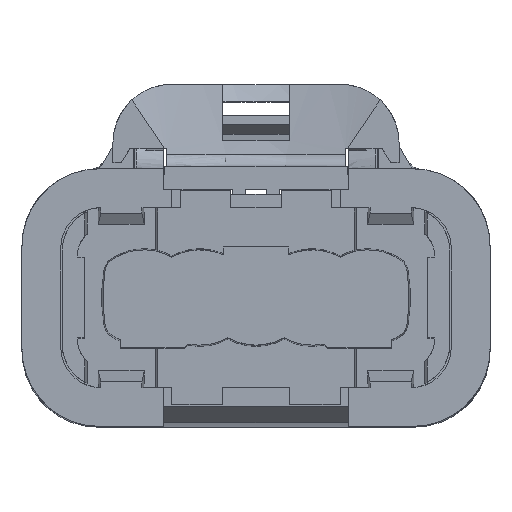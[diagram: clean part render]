
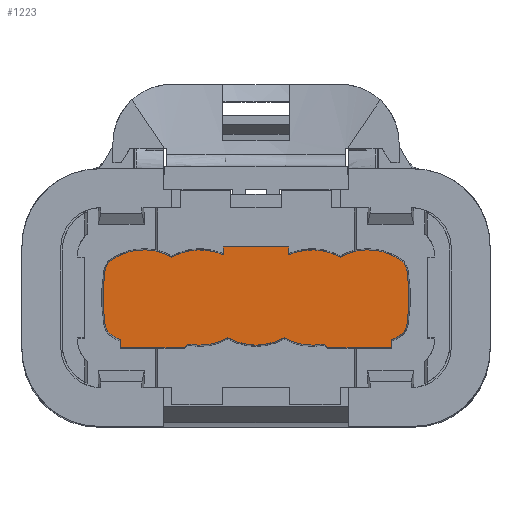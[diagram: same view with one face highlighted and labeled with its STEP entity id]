
A CAD part, top view. The second image highlights one B-rep face of the part: STEP entity #1223.
In plain terms, the highlighted planar face has unit normal (0, 0, 1).
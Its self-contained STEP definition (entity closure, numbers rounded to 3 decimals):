
#1223=ADVANCED_FACE('',(#2670),#1866,.T.);
#1866=PLANE('',#17959);
#2670=FACE_OUTER_BOUND('',#3540,.T.);
#3540=EDGE_LOOP('',(#8256,#8257,#8258,#8259,#8260,#8261,#8262,#8263,#8264,
#8265,#8266,#8267,#8268,#8269,#8270,#8271,#8272,#8273,#8274,#8275,#8276,
#8277,#8278,#8279,#8280,#8281));
#3763=ELLIPSE('',#17887,0.198,0.198);
#3764=ELLIPSE('',#17936,0.196,0.196);
#4107=CIRCLE('',#17866,0.1);
#4108=CIRCLE('',#17868,3.33);
#4109=CIRCLE('',#17870,0.93);
#4110=CIRCLE('',#17872,9.93);
#4111=CIRCLE('',#17874,0.93);
#4112=CIRCLE('',#17876,3.33);
#4118=CIRCLE('',#17889,3.33);
#4121=CIRCLE('',#17904,3.33);
#4124=CIRCLE('',#17918,3.33);
#4127=CIRCLE('',#17923,0.1);
#4130=CIRCLE('',#17931,3.33);
#4132=CIRCLE('',#17934,3.33);
#4133=CIRCLE('',#17939,3.33);
#4135=CIRCLE('',#17942,0.93);
#4137=CIRCLE('',#17945,9.93);
#4139=CIRCLE('',#17948,0.93);
#4140=CIRCLE('',#17950,3.33);
#8256=ORIENTED_EDGE('',*,*,#12826,.T.);
#8257=ORIENTED_EDGE('',*,*,#12828,.T.);
#8258=ORIENTED_EDGE('',*,*,#12652,.T.);
#8259=ORIENTED_EDGE('',*,*,#12772,.T.);
#8260=ORIENTED_EDGE('',*,*,#12743,.T.);
#8261=ORIENTED_EDGE('',*,*,#12713,.T.);
#8262=ORIENTED_EDGE('',*,*,#12711,.T.);
#8263=ORIENTED_EDGE('',*,*,#12709,.T.);
#8264=ORIENTED_EDGE('',*,*,#12707,.T.);
#8265=ORIENTED_EDGE('',*,*,#12705,.T.);
#8266=ORIENTED_EDGE('',*,*,#12655,.T.);
#8267=ORIENTED_EDGE('',*,*,#12647,.T.);
#8268=ORIENTED_EDGE('',*,*,#12701,.T.);
#8269=ORIENTED_EDGE('',*,*,#12740,.T.);
#8270=ORIENTED_EDGE('',*,*,#12769,.T.);
#8271=ORIENTED_EDGE('',*,*,#12805,.T.);
#8272=ORIENTED_EDGE('',*,*,#12808,.T.);
#8273=ORIENTED_EDGE('',*,*,#12811,.T.);
#8274=ORIENTED_EDGE('',*,*,#12797,.T.);
#8275=ORIENTED_EDGE('',*,*,#12750,.T.);
#8276=ORIENTED_EDGE('',*,*,#12813,.T.);
#8277=ORIENTED_EDGE('',*,*,#12816,.T.);
#8278=ORIENTED_EDGE('',*,*,#12819,.T.);
#8279=ORIENTED_EDGE('',*,*,#12822,.T.);
#8280=ORIENTED_EDGE('',*,*,#12825,.T.);
#8281=ORIENTED_EDGE('',*,*,#12791,.T.);
#10401=VERTEX_POINT('',#27629);
#10402=VERTEX_POINT('',#27631);
#10403=VERTEX_POINT('',#27635);
#10406=VERTEX_POINT('',#27640);
#10408=VERTEX_POINT('',#27648);
#10441=VERTEX_POINT('',#27741);
#10444=VERTEX_POINT('',#27755);
#10445=VERTEX_POINT('',#27759);
#10446=VERTEX_POINT('',#27763);
#10447=VERTEX_POINT('',#27767);
#10448=VERTEX_POINT('',#27771);
#10467=VERTEX_POINT('',#27828);
#10469=VERTEX_POINT('',#27840);
#10472=VERTEX_POINT('',#27853);
#10473=VERTEX_POINT('',#27855);
#10483=VERTEX_POINT('',#27895);
#10494=VERTEX_POINT('',#27942);
#10495=VERTEX_POINT('',#27943);
#10498=VERTEX_POINT('',#27957);
#10503=VERTEX_POINT('',#27981);
#10505=VERTEX_POINT('',#27990);
#10507=VERTEX_POINT('',#28008);
#10509=VERTEX_POINT('',#28017);
#10511=VERTEX_POINT('',#28023);
#10513=VERTEX_POINT('',#28029);
#10514=VERTEX_POINT('',#28036);
#12647=EDGE_CURVE('',#10402,#10401,#14644,.T.);
#12652=EDGE_CURVE('',#10403,#10406,#14649,.T.);
#12655=EDGE_CURVE('',#10408,#10402,#14652,.T.);
#12701=EDGE_CURVE('',#10401,#10441,#4107,.T.);
#12705=EDGE_CURVE('',#10444,#10408,#4108,.T.);
#12707=EDGE_CURVE('',#10445,#10444,#4109,.T.);
#12709=EDGE_CURVE('',#10446,#10445,#4110,.T.);
#12711=EDGE_CURVE('',#10447,#10446,#4111,.T.);
#12713=EDGE_CURVE('',#10448,#10447,#4112,.T.);
#12740=EDGE_CURVE('',#10441,#10467,#3763,.T.);
#12743=EDGE_CURVE('',#10469,#10448,#4118,.T.);
#12750=EDGE_CURVE('',#10472,#10473,#14710,.T.);
#12769=EDGE_CURVE('',#10467,#10483,#4121,.T.);
#12772=EDGE_CURVE('',#10406,#10469,#14728,.T.);
#12791=EDGE_CURVE('',#10494,#10495,#4124,.T.);
#12797=EDGE_CURVE('',#10498,#10472,#4127,.T.);
#12805=EDGE_CURVE('',#10483,#10503,#4130,.T.);
#12808=EDGE_CURVE('',#10503,#10505,#4132,.T.);
#12811=EDGE_CURVE('',#10505,#10498,#3764,.T.);
#12813=EDGE_CURVE('',#10473,#10507,#14751,.T.);
#12816=EDGE_CURVE('',#10507,#10509,#4133,.T.);
#12819=EDGE_CURVE('',#10509,#10511,#4135,.T.);
#12822=EDGE_CURVE('',#10511,#10513,#4137,.T.);
#12825=EDGE_CURVE('',#10513,#10494,#4139,.T.);
#12826=EDGE_CURVE('',#10495,#10514,#4140,.T.);
#12828=EDGE_CURVE('',#10514,#10403,#14756,.T.);
#14644=LINE('',#27630,#16464);
#14649=LINE('',#27641,#16469);
#14652=LINE('',#27647,#16472);
#14710=LINE('',#27856,#16530);
#14728=LINE('',#27903,#16548);
#14751=LINE('',#28007,#16571);
#14756=LINE('',#28042,#16576);
#16464=VECTOR('',#21595,1.);
#16469=VECTOR('',#21602,1.);
#16472=VECTOR('',#21609,1.);
#16530=VECTOR('',#21773,1.);
#16548=VECTOR('',#21819,1.);
#16571=VECTOR('',#21904,1.);
#16576=VECTOR('',#21937,1.);
#17866=AXIS2_PLACEMENT_3D('',#27740,#21691,#21692);
#17868=AXIS2_PLACEMENT_3D('',#27754,#21696,#21697);
#17870=AXIS2_PLACEMENT_3D('',#27758,#21701,#21702);
#17872=AXIS2_PLACEMENT_3D('',#27762,#21706,#21707);
#17874=AXIS2_PLACEMENT_3D('',#27766,#21711,#21712);
#17876=AXIS2_PLACEMENT_3D('',#27770,#21716,#21717);
#17887=AXIS2_PLACEMENT_3D('',#27827,#21757,#21758);
#17889=AXIS2_PLACEMENT_3D('',#27839,#21761,#21762);
#17904=AXIS2_PLACEMENT_3D('',#27894,#21813,#21814);
#17918=AXIS2_PLACEMENT_3D('',#27941,#21859,#21860);
#17923=AXIS2_PLACEMENT_3D('',#27956,#21871,#21872);
#17931=AXIS2_PLACEMENT_3D('',#27980,#21890,#21891);
#17934=AXIS2_PLACEMENT_3D('',#27989,#21896,#21897);
#17936=AXIS2_PLACEMENT_3D('',#28001,#21900,#21901);
#17939=AXIS2_PLACEMENT_3D('',#28016,#21908,#21909);
#17942=AXIS2_PLACEMENT_3D('',#28022,#21915,#21916);
#17945=AXIS2_PLACEMENT_3D('',#28028,#21922,#21923);
#17948=AXIS2_PLACEMENT_3D('',#28033,#21929,#21930);
#17950=AXIS2_PLACEMENT_3D('',#28035,#21933,#21934);
#17959=AXIS2_PLACEMENT_3D('',#28052,#21954,#21955);
#21595=DIRECTION('',(1.,0.,0.));
#21602=DIRECTION('',(-1.,0.,0.));
#21609=DIRECTION('',(0.,-1.,0.));
#21691=DIRECTION('',(0.,0.,1.));
#21692=DIRECTION('',(1.,0.,0.));
#21696=DIRECTION('',(0.,0.,1.));
#21697=DIRECTION('',(1.,0.,0.));
#21701=DIRECTION('',(0.,0.,1.));
#21702=DIRECTION('',(1.,0.,0.));
#21706=DIRECTION('',(0.,0.,1.));
#21707=DIRECTION('',(1.,0.,0.));
#21711=DIRECTION('',(0.,0.,1.));
#21712=DIRECTION('',(1.,0.,0.));
#21716=DIRECTION('',(0.,0.,1.));
#21717=DIRECTION('',(1.,0.,0.));
#21757=DIRECTION('',(0.,0.,-1.));
#21758=DIRECTION('',(0.349,0.937,0.));
#21761=DIRECTION('',(0.,0.,1.));
#21762=DIRECTION('',(1.,0.,0.));
#21773=DIRECTION('',(1.,0.,0.));
#21813=DIRECTION('',(0.,0.,1.));
#21814=DIRECTION('',(1.,0.,0.));
#21819=DIRECTION('',(0.,-1.,0.));
#21859=DIRECTION('',(0.,0.,1.));
#21860=DIRECTION('',(1.,0.,0.));
#21871=DIRECTION('',(0.,0.,1.));
#21872=DIRECTION('',(1.,0.,0.));
#21890=DIRECTION('',(0.,0.,1.));
#21891=DIRECTION('',(1.,0.,0.));
#21896=DIRECTION('',(0.,0.,1.));
#21897=DIRECTION('',(1.,0.,0.));
#21900=DIRECTION('',(0.,0.,-1.));
#21901=DIRECTION('',(0.372,-0.928,0.));
#21904=DIRECTION('',(0.,1.,0.));
#21908=DIRECTION('',(0.,0.,1.));
#21909=DIRECTION('',(1.,0.,0.));
#21915=DIRECTION('',(0.,0.,1.));
#21916=DIRECTION('',(1.,0.,0.));
#21922=DIRECTION('',(0.,0.,1.));
#21923=DIRECTION('',(1.,0.,0.));
#21929=DIRECTION('',(0.,0.,1.));
#21930=DIRECTION('',(1.,0.,0.));
#21933=DIRECTION('',(0.,0.,1.));
#21934=DIRECTION('',(1.,0.,0.));
#21937=DIRECTION('',(0.,1.,0.));
#21954=DIRECTION('',(0.,0.,1.));
#21955=DIRECTION('',(-1.,0.,0.));
#27629=CARTESIAN_POINT('',(-4.26,-3.,29.35));
#27630=CARTESIAN_POINT('',(10.839,-3.,29.35));
#27631=CARTESIAN_POINT('',(-8.06,-3.,29.35));
#27635=CARTESIAN_POINT('',(1.95,3.,29.35));
#27640=CARTESIAN_POINT('',(-1.95,3.,29.35));
#27641=CARTESIAN_POINT('',(10.839,3.,29.35));
#27647=CARTESIAN_POINT('',(-8.06,3.915,29.35));
#27648=CARTESIAN_POINT('',(-8.06,-2.522,29.35));
#27740=CARTESIAN_POINT('',(-4.26,-2.9,29.35));
#27741=CARTESIAN_POINT('',(-4.162,-2.924,29.35));
#27754=CARTESIAN_POINT('',(-6.66,0.5,29.35));
#27755=CARTESIAN_POINT('',(-8.583,-2.219,29.35));
#27758=CARTESIAN_POINT('',(-8.046,-1.459,29.35));
#27759=CARTESIAN_POINT('',(-8.964,-1.61,29.35));
#27762=CARTESIAN_POINT('',(0.835,0.,29.35));
#27763=CARTESIAN_POINT('',(-8.964,1.61,29.35));
#27766=CARTESIAN_POINT('',(-8.046,1.459,29.35));
#27767=CARTESIAN_POINT('',(-8.583,2.219,29.35));
#27770=CARTESIAN_POINT('',(-6.66,-0.5,29.35));
#27771=CARTESIAN_POINT('',(-4.995,2.384,29.35));
#27827=CARTESIAN_POINT('',(-3.968,-2.971,29.35));
#27828=CARTESIAN_POINT('',(-3.933,-2.775,29.35));
#27839=CARTESIAN_POINT('',(-3.33,-0.5,29.35));
#27840=CARTESIAN_POINT('',(-1.95,2.531,29.35));
#27853=CARTESIAN_POINT('',(4.26,-3.,29.35));
#27855=CARTESIAN_POINT('',(8.06,-3.,29.35));
#27856=CARTESIAN_POINT('',(10.839,-3.,29.35));
#27894=CARTESIAN_POINT('',(-3.33,0.5,29.35));
#27895=CARTESIAN_POINT('',(-1.665,-2.384,29.35));
#27903=CARTESIAN_POINT('',(-1.95,3.915,29.35));
#27941=CARTESIAN_POINT('',(6.66,-0.5,29.35));
#27942=CARTESIAN_POINT('',(8.583,2.219,29.35));
#27943=CARTESIAN_POINT('',(4.995,2.384,29.35));
#27956=CARTESIAN_POINT('',(4.26,-2.9,29.35));
#27957=CARTESIAN_POINT('',(4.161,-2.924,29.35));
#27980=CARTESIAN_POINT('',(0.,0.5,29.35));
#27981=CARTESIAN_POINT('',(1.665,-2.384,29.35));
#27989=CARTESIAN_POINT('',(3.33,0.5,29.35));
#27990=CARTESIAN_POINT('',(3.933,-2.775,29.35));
#28001=CARTESIAN_POINT('',(3.967,-2.968,29.35));
#28007=CARTESIAN_POINT('',(8.06,3.915,29.35));
#28008=CARTESIAN_POINT('',(8.06,-2.522,29.35));
#28016=CARTESIAN_POINT('',(6.66,0.5,29.35));
#28017=CARTESIAN_POINT('',(8.583,-2.219,29.35));
#28022=CARTESIAN_POINT('',(8.046,-1.459,29.35));
#28023=CARTESIAN_POINT('',(8.964,-1.61,29.35));
#28028=CARTESIAN_POINT('',(-0.835,0.,29.35));
#28029=CARTESIAN_POINT('',(8.964,1.61,29.35));
#28033=CARTESIAN_POINT('',(8.046,1.459,29.35));
#28035=CARTESIAN_POINT('',(3.33,-0.5,29.35));
#28036=CARTESIAN_POINT('',(1.95,2.531,29.35));
#28042=CARTESIAN_POINT('',(1.95,3.915,29.35));
#28052=CARTESIAN_POINT('',(10.839,3.915,29.35));
